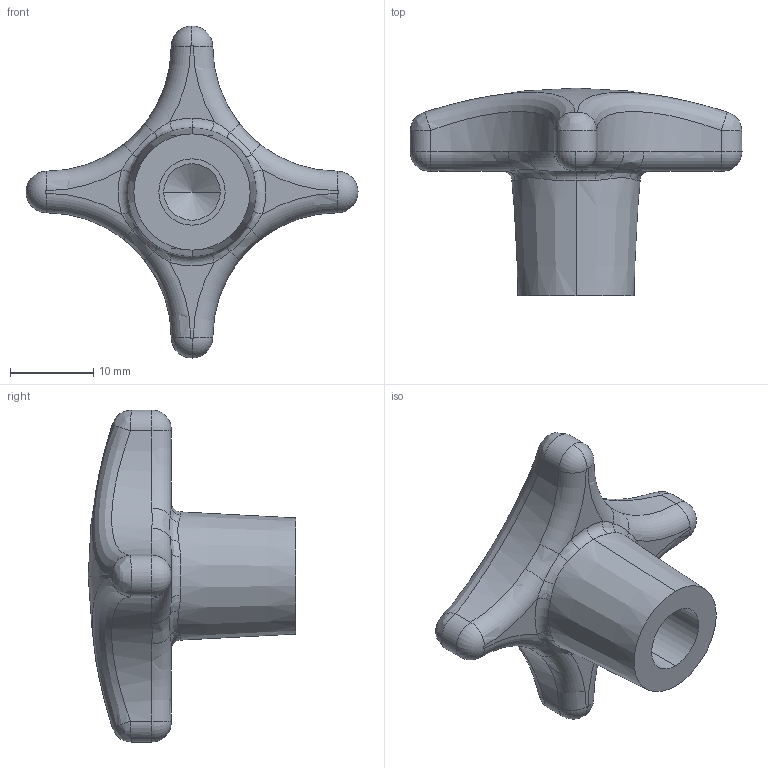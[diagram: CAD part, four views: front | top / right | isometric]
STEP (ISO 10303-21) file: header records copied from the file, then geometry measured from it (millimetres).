
FILE_DESCRIPTION (( 'STEP AP203' ), '1' );
FILE_NAME ('70040.W0840.step', '2019-01-26T19:34:15', ( '' ), ( '' ), 'SwSTEP 2.0', 'SolidWorks 2017', '' );
FILE_SCHEMA (( 'CONFIG_CONTROL_DESIGN' ));
Length unit declared in the file: millimetre
Products named in the file (1): 70040.W0840
Bounding box: 40 x 25 x 40 mm (x, y, z)
Volume: 6340.6 mm3; surface area: 3073.9 mm2
Topology: 1 solids, 1 shells, 68 faces, 160 edges, 94 vertices
Faces by surface type: bspline 24, torus 19, cylinder 13, plane 6, cone 4, sphere 2
Entity records: 3430 total; most frequent: CARTESIAN_POINT 1920, ORIENTED_EDGE 316, DIRECTION 295, EDGE_CURVE 158, AXIS2_PLACEMENT_3D 139, VERTEX_POINT 94, CIRCLE 94, EDGE_LOOP 70
